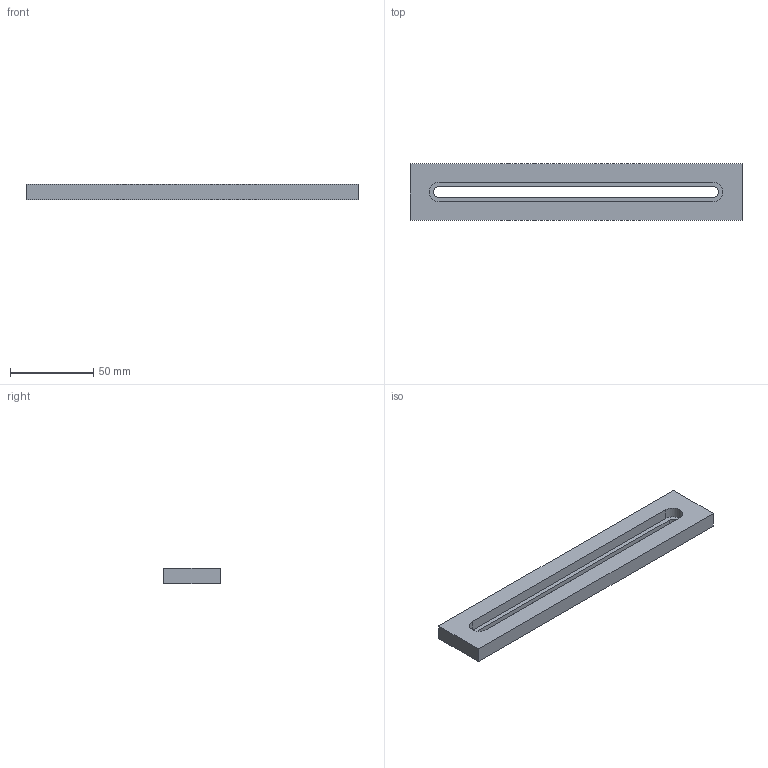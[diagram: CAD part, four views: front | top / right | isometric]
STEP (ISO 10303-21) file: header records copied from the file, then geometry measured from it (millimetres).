
FILE_DESCRIPTION(/* description */ (''),/* implementation_level */ '2;1');
FILE_NAME(/* name */ '2MP-20.01.stp',/* time_stamp */ '2025-08-22T13:34:20+03:00',/* author */ ('dsgn39'),/* organization */ (''),/* preprocessor_version */ 'ST-DEVELOPER v20',/* originating_system */ 'Autodesk Inventor 2025',/* authorisation */ '');
FILE_SCHEMA (('AUTOMOTIVE_DESIGN { 1 0 10303 214 3 1 1 }'));
Length unit declared in the file: millimetre
Products named in the file (1): 2MP-20.01
Bounding box: 200 x 34 x 9.3 mm (x, y, z)
Volume: 46539 mm3; surface area: 19112.3 mm2
Topology: 1 solids, 1 shells, 15 faces, 36 edges, 24 vertices
Faces by surface type: plane 11, cylinder 4
Entity records: 485 total; most frequent: DIRECTION 76, CARTESIAN_POINT 76, ORIENTED_EDGE 72, EDGE_CURVE 36, LINE 28, VECTOR 28, VERTEX_POINT 24, AXIS2_PLACEMENT_3D 24
